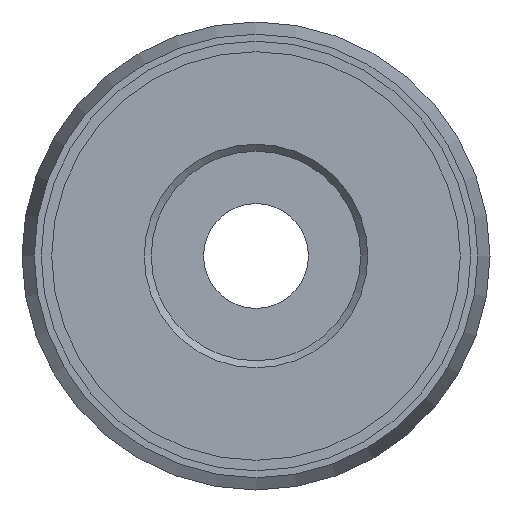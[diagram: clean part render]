
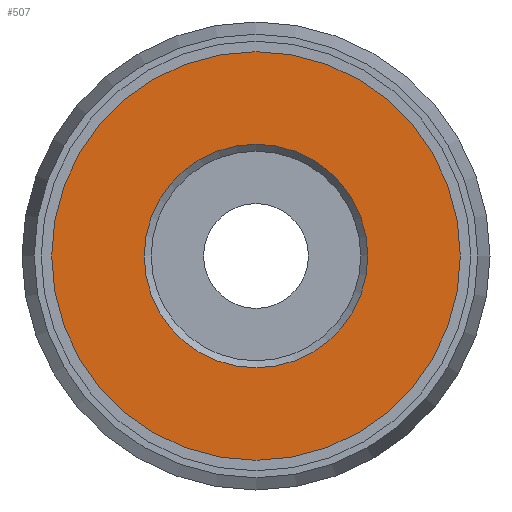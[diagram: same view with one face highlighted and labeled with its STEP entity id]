
A CAD part, front view. The second image highlights one B-rep face of the part: STEP entity #507.
In plain terms, the highlighted planar face has unit normal (0, -1, 0).
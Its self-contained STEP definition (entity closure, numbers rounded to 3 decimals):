
#15=FACE_BOUND('',#80,.T.);
#25=PLANE('',#562);
#49=FACE_OUTER_BOUND('',#79,.T.);
#79=EDGE_LOOP('',(#356,#357));
#80=EDGE_LOOP('',(#358));
#157=CIRCLE('',#556,3.2);
#162=CIRCLE('',#563,5.85);
#163=CIRCLE('',#564,5.85);
#213=VERTEX_POINT('',#837);
#218=VERTEX_POINT('',#851);
#219=VERTEX_POINT('',#852);
#269=EDGE_CURVE('',#213,#213,#157,.T.);
#276=EDGE_CURVE('',#218,#219,#162,.T.);
#277=EDGE_CURVE('',#219,#218,#163,.T.);
#356=ORIENTED_EDGE('',*,*,#276,.T.);
#357=ORIENTED_EDGE('',*,*,#277,.T.);
#358=ORIENTED_EDGE('',*,*,#269,.F.);
#507=ADVANCED_FACE('',(#49,#15),#25,.T.);
#556=AXIS2_PLACEMENT_3D('',#838,#645,#646);
#562=AXIS2_PLACEMENT_3D('',#850,#659,#660);
#563=AXIS2_PLACEMENT_3D('',#853,#661,#662);
#564=AXIS2_PLACEMENT_3D('',#854,#663,#664);
#645=DIRECTION('center_axis',(0.,-1.,0.));
#646=DIRECTION('ref_axis',(-1.,0.,0.));
#659=DIRECTION('center_axis',(0.,-1.,0.));
#660=DIRECTION('ref_axis',(0.,0.,-1.));
#661=DIRECTION('center_axis',(0.,-1.,0.));
#662=DIRECTION('ref_axis',(1.,0.,0.));
#663=DIRECTION('center_axis',(0.,-1.,0.));
#664=DIRECTION('ref_axis',(1.,0.,0.));
#837=CARTESIAN_POINT('',(3.2,-20.7,0.));
#838=CARTESIAN_POINT('Origin',(0.,-20.7,0.));
#850=CARTESIAN_POINT('Origin',(0.,-20.7,0.));
#851=CARTESIAN_POINT('',(5.85,-20.7,0.));
#852=CARTESIAN_POINT('',(-5.85,-20.7,0.));
#853=CARTESIAN_POINT('Origin',(0.,-20.7,0.));
#854=CARTESIAN_POINT('Origin',(0.,-20.7,0.));
